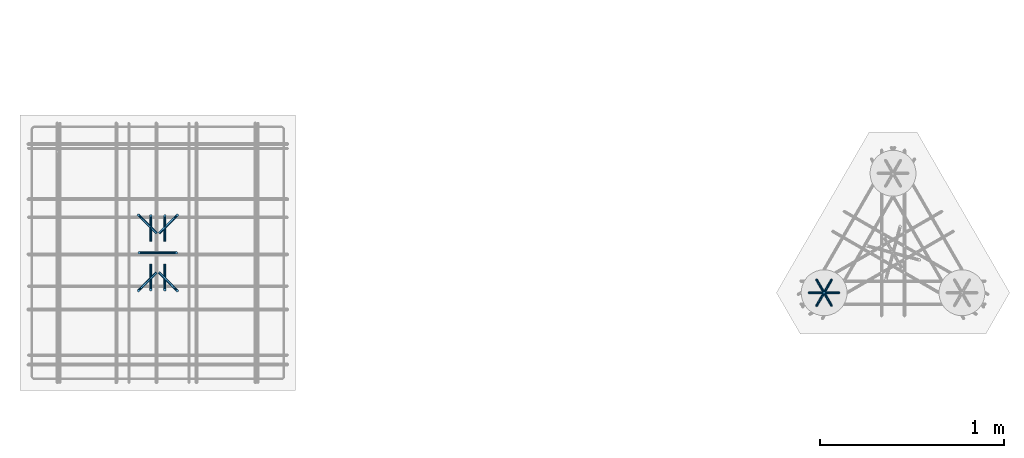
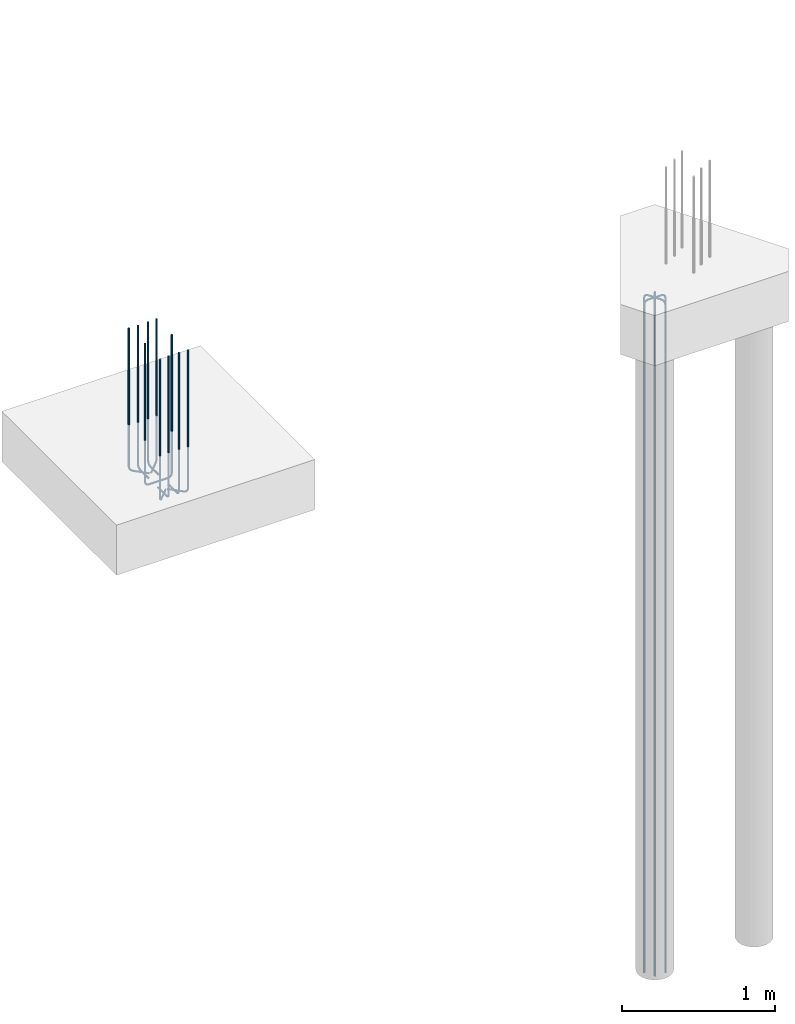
# One storey, part 2 of 23: 2 reinforcing bars.
"""IFC2X3 building model written with IfcOpenShell, lengths in metres."""

from ifc_helpers import new_model, entity, si_unit, direction, frame, origin, place, context, subcontext, project, spatial, shape, source, transform, mapped, element, save


model = new_model("IFC2X3")

# Units and contexts
model_context = context("Model", 3, precision=0.0, world=origin(), true_north=direction((0.0, 1.0)))
plan_context = context("Plan", 3, precision=0.0, world=origin(), true_north=direction((0.0, 1.0)))
body_context = subcontext(model_context, "Body", "Model", "MODEL_VIEW", scale=1.0)
ifc_project = project(units=[si_unit("LENGTHUNIT", "METRE"), si_unit("AREAUNIT", "SQUARE_METRE"), si_unit("VOLUMEUNIT", "CUBIC_METRE"), si_unit("PLANEANGLEUNIT", "RADIAN"), si_unit("THERMODYNAMICTEMPERATUREUNIT", "DEGREE_CELSIUS"), si_unit("FORCEUNIT", "NEWTON"), si_unit("MASSUNIT", "GRAM", prefix="KILO")], contexts=[model_context, plan_context])

# Site, building, storey
placement = place(None, origin())
site = spatial("IfcSite", under=ifc_project, at=placement, Name="Default Site", CompositionType="ELEMENT")
building = spatial("IfcBuilding", under=site, at=placement, Name="Default Building", CompositionType="ELEMENT")
storey_placement = place(placement, frame((0.0, 0.0, 0.0), z_axis=(1.0, 0.0, 0.0), x_axis=(0.0, 0.0, 1.0)))
storey = spatial("IfcBuildingStorey", under=building, at=storey_placement, Name="Piano 0", CompositionType="ELEMENT", Elevation=0.0)

# Reinforcing bars
shared_shape_1 = source(origin(), body_context, None, "AdvancedSweptSolid", [
    entity("IfcSweptDiskSolid", entity("IfcCompositeCurve", [entity("IfcCompositeCurveSegment", "CONTINUOUS", True, entity("IfcPolyline", [entity("IfcCartesianPoint", [0.0, 0.0, 0.0]), entity("IfcCartesianPoint", [-0.112, 0.0, 0.0]), entity("IfcCartesianPoint", [-0.126, 0.0, -0.003751]), entity("IfcCartesianPoint", [-0.136249, 0.0, -0.014]), entity("IfcCartesianPoint", [-0.14, 0.0, -0.028]), entity("IfcCartesianPoint", [-0.14, 0.0, -5.365])]))], False), 0.007, 0.0, 0.0),
])
shared_shape_2 = source(origin(), body_context, None, "AdvancedSweptSolid", [
    entity("IfcSweptDiskSolid", entity("IfcCompositeCurve", [entity("IfcCompositeCurveSegment", "CONTINUOUS", True, entity("IfcPolyline", [entity("IfcCartesianPoint", [0.0, 0.0, 0.0]), entity("IfcCartesianPoint", [-0.112, 0.0, 0.0]), entity("IfcCartesianPoint", [-0.126, 0.0, -0.003751]), entity("IfcCartesianPoint", [-0.136249, 0.0, -0.014]), entity("IfcCartesianPoint", [-0.14, 0.0, -0.028]), entity("IfcCartesianPoint", [-0.14, 0.0, -5.365])]))], False), 0.007, 0.0, 0.0),
])
shared_shape_3 = source(origin(), body_context, None, "AdvancedSweptSolid", [
    entity("IfcSweptDiskSolid", entity("IfcCompositeCurve", [entity("IfcCompositeCurveSegment", "CONTINUOUS", True, entity("IfcPolyline", [entity("IfcCartesianPoint", [0.0, 0.0, 0.0]), entity("IfcCartesianPoint", [-0.112, 0.0, 0.0]), entity("IfcCartesianPoint", [-0.126, 0.0, -0.003751]), entity("IfcCartesianPoint", [-0.136249, 0.0, -0.014]), entity("IfcCartesianPoint", [-0.14, 0.0, -0.028]), entity("IfcCartesianPoint", [-0.14, 0.0, -5.365])]))], False), 0.007, 0.0, 0.0),
])
shared_shape_4 = source(origin(), body_context, None, "AdvancedSweptSolid", [
    entity("IfcSweptDiskSolid", entity("IfcCompositeCurve", [entity("IfcCompositeCurveSegment", "CONTINUOUS", True, entity("IfcPolyline", [entity("IfcCartesianPoint", [0.0, 0.0, 0.0]), entity("IfcCartesianPoint", [-0.112, 0.0, 0.0]), entity("IfcCartesianPoint", [-0.126, 0.0, -0.003751]), entity("IfcCartesianPoint", [-0.136249, 0.0, -0.014]), entity("IfcCartesianPoint", [-0.14, 0.0, -0.028]), entity("IfcCartesianPoint", [-0.14, 0.0, -5.365])]))], False), 0.007, 0.0, 0.0),
])
shared_shape_5 = source(origin(), body_context, None, "AdvancedSweptSolid", [
    entity("IfcSweptDiskSolid", entity("IfcCompositeCurve", [entity("IfcCompositeCurveSegment", "CONTINUOUS", True, entity("IfcPolyline", [entity("IfcCartesianPoint", [0.0, 0.0, 0.0]), entity("IfcCartesianPoint", [-0.112, 0.0, 0.0]), entity("IfcCartesianPoint", [-0.126, 0.0, -0.003751]), entity("IfcCartesianPoint", [-0.136249, 0.0, -0.014]), entity("IfcCartesianPoint", [-0.14, 0.0, -0.028]), entity("IfcCartesianPoint", [-0.14, 0.0, -5.365])]))], False), 0.007, 0.0, 0.0),
])
shared_shape_6 = source(origin(), body_context, None, "AdvancedSweptSolid", [
    entity("IfcSweptDiskSolid", entity("IfcCompositeCurve", [entity("IfcCompositeCurveSegment", "CONTINUOUS", True, entity("IfcPolyline", [entity("IfcCartesianPoint", [0.0, 0.0, 0.0]), entity("IfcCartesianPoint", [-0.112, 0.0, 0.0]), entity("IfcCartesianPoint", [-0.126, 0.0, -0.003751]), entity("IfcCartesianPoint", [-0.136249, 0.0, -0.014]), entity("IfcCartesianPoint", [-0.14, 0.0, -0.028]), entity("IfcCartesianPoint", [-0.14, 0.0, -5.365])]))], False), 0.007, 0.0, 0.0),
])
element("IfcReinforcingBar", 1, at=placement, inside=storey, Name="Arm Principale; Palo:1 Filo:2 [Piano:0]", BarLength=32.95489, BarRole="MAIN", BarSurface="TEXTURED", NominalDiameter=0.014, shapes=[
    shape(body_context, None, "MappedRepresentation", [mapped(shared_shape_1, transform((3.685, -0.217, -0.035))), mapped(shared_shape_2, transform((3.655, -0.165038, -0.035), x_axis=(0.5, 0.866025, 0.0), y_axis=(-0.866025, 0.5, 0.0))), mapped(shared_shape_3, transform((3.595, -0.165038, -0.035), x_axis=(-0.5, 0.866025, 0.0), y_axis=(-0.866025, -0.5, 0.0))), mapped(shared_shape_4, transform((3.565, -0.217, -0.035), x_axis=(-1.0, 0.0, 0.0), y_axis=(0.0, -1.0, 0.0))), mapped(shared_shape_5, transform((3.595, -0.268962, -0.035), x_axis=(-0.5, -0.866025, 0.0), y_axis=(0.866025, -0.5, 0.0))), mapped(shared_shape_6, transform((3.655, -0.268962, -0.035), x_axis=(0.5, -0.866025, 0.0), y_axis=(0.866025, 0.5, 0.0)))]),
])
shared_shape_7 = source(origin(), body_context, None, "AdvancedSweptSolid", [
    entity("IfcSweptDiskSolid", entity("IfcCompositeCurve", [entity("IfcCompositeCurveSegment", "CONTINUOUS", True, entity("IfcPolyline", [entity("IfcCartesianPoint", [0.0, 0.0, 0.0]), entity("IfcCartesianPoint", [-0.079196, -0.079196, 0.0]), entity("IfcCartesianPoint", [-0.089095, -0.089095, 0.003751]), entity("IfcCartesianPoint", [-0.096342, -0.096342, 0.014]), entity("IfcCartesianPoint", [-0.098995, -0.098995, 0.028]), entity("IfcCartesianPoint", [-0.098995, -0.098995, 1.135])]))], False), 0.007, 0.0, 0.0),
])
shared_shape_8 = source(origin(), body_context, None, "MappedRepresentation", [mapped(shared_shape_7, transform((-0.006106, -0.106106, -0.365)))])
shared_shape_9 = source(origin(), body_context, None, "AdvancedSweptSolid", [
    entity("IfcSweptDiskSolid", entity("IfcCompositeCurve", [entity("IfcCompositeCurveSegment", "CONTINUOUS", True, entity("IfcPolyline", [entity("IfcCartesianPoint", [0.0, 0.0, 0.0]), entity("IfcCartesianPoint", [0.079196, -0.079196, 0.0]), entity("IfcCartesianPoint", [0.089095, -0.089095, 0.003751]), entity("IfcCartesianPoint", [0.096342, -0.096342, 0.014]), entity("IfcCartesianPoint", [0.098995, -0.098995, 0.028]), entity("IfcCartesianPoint", [0.098995, -0.098995, 1.135])]))], False), 0.007, 0.0, 0.0),
])
shared_shape_10 = source(origin(), body_context, None, "MappedRepresentation", [mapped(shared_shape_9, transform((0.006106, -0.106106, -0.365)))])
shared_shape_11 = source(origin(), body_context, None, "AdvancedSweptSolid", [
    entity("IfcSweptDiskSolid", entity("IfcCompositeCurve", [entity("IfcCompositeCurveSegment", "CONTINUOUS", True, entity("IfcPolyline", [entity("IfcCartesianPoint", [0.0, 0.0, 0.0]), entity("IfcCartesianPoint", [0.079196, 0.079196, 0.0]), entity("IfcCartesianPoint", [0.089095, 0.089095, 0.003751]), entity("IfcCartesianPoint", [0.096342, 0.096342, 0.014]), entity("IfcCartesianPoint", [0.098995, 0.098995, 0.028]), entity("IfcCartesianPoint", [0.098995, 0.098995, 1.135])]))], False), 0.007, 0.0, 0.0),
])
shared_shape_12 = source(origin(), body_context, None, "MappedRepresentation", [mapped(shared_shape_11, transform((0.006106, 0.106106, -0.365)))])
shared_shape_13 = source(origin(), body_context, None, "AdvancedSweptSolid", [
    entity("IfcSweptDiskSolid", entity("IfcCompositeCurve", [entity("IfcCompositeCurveSegment", "CONTINUOUS", True, entity("IfcPolyline", [entity("IfcCartesianPoint", [0.0, 0.0, 0.0]), entity("IfcCartesianPoint", [-0.079196, 0.079196, 0.0]), entity("IfcCartesianPoint", [-0.089095, 0.089095, 0.003751]), entity("IfcCartesianPoint", [-0.096342, 0.096342, 0.014]), entity("IfcCartesianPoint", [-0.098995, 0.098995, 0.028]), entity("IfcCartesianPoint", [-0.098995, 0.098995, 1.135])]))], False), 0.007, 0.0, 0.0),
])
shared_shape_14 = source(origin(), body_context, None, "MappedRepresentation", [mapped(shared_shape_13, transform((-0.006106, 0.106106, -0.365)))])
shared_shape_15 = source(origin(), body_context, None, "AdvancedSweptSolid", [
    entity("IfcSweptDiskSolid", entity("IfcCompositeCurve", [entity("IfcCompositeCurveSegment", "CONTINUOUS", True, entity("IfcPolyline", [entity("IfcCartesianPoint", [0.0, 0.0, 0.0]), entity("IfcCartesianPoint", [0.0, -0.112, 0.0]), entity("IfcCartesianPoint", [0.0, -0.126, 0.003751]), entity("IfcCartesianPoint", [0.0, -0.136249, 0.014]), entity("IfcCartesianPoint", [0.0, -0.14, 0.028]), entity("IfcCartesianPoint", [0.0, -0.14, 1.135])]))], False), 0.007, 0.0, 0.0),
])
shared_shape_16 = source(origin(), body_context, None, "MappedRepresentation", [mapped(shared_shape_15, transform((-0.038333, -0.061, -0.365)))])
shared_shape_17 = source(origin(), body_context, None, "AdvancedSweptSolid", [
    entity("IfcSweptDiskSolid", entity("IfcCompositeCurve", [entity("IfcCompositeCurveSegment", "CONTINUOUS", True, entity("IfcPolyline", [entity("IfcCartesianPoint", [0.0, 0.0, 0.0]), entity("IfcCartesianPoint", [0.0, -0.112, 0.0]), entity("IfcCartesianPoint", [0.0, -0.126, 0.003751]), entity("IfcCartesianPoint", [0.0, -0.136249, 0.014]), entity("IfcCartesianPoint", [0.0, -0.14, 0.028]), entity("IfcCartesianPoint", [0.0, -0.14, 1.135])]))], False), 0.007, 0.0, 0.0),
])
shared_shape_18 = source(origin(), body_context, None, "MappedRepresentation", [mapped(shared_shape_17, transform((0.038333, -0.061, -0.365)))])
shared_shape_19 = source(origin(), body_context, None, "AdvancedSweptSolid", [
    entity("IfcSweptDiskSolid", entity("IfcCompositeCurve", [entity("IfcCompositeCurveSegment", "CONTINUOUS", True, entity("IfcPolyline", [entity("IfcCartesianPoint", [0.0, 0.0, 0.0]), entity("IfcCartesianPoint", [0.112, 0.0, 0.0]), entity("IfcCartesianPoint", [0.126, 0.0, 0.003751]), entity("IfcCartesianPoint", [0.136249, 0.0, 0.014]), entity("IfcCartesianPoint", [0.14, 0.0, 0.028]), entity("IfcCartesianPoint", [0.14, 0.0, 1.135])]))], False), 0.007, 0.0, 0.0),
])
shared_shape_20 = source(origin(), body_context, None, "MappedRepresentation", [mapped(shared_shape_19, transform((-0.039, 0.0, -0.365)))])
shared_shape_21 = source(origin(), body_context, None, "AdvancedSweptSolid", [
    entity("IfcSweptDiskSolid", entity("IfcCompositeCurve", [entity("IfcCompositeCurveSegment", "CONTINUOUS", True, entity("IfcPolyline", [entity("IfcCartesianPoint", [0.0, 0.0, 0.0]), entity("IfcCartesianPoint", [0.0, 0.112, 0.0]), entity("IfcCartesianPoint", [0.0, 0.126, 0.003751]), entity("IfcCartesianPoint", [0.0, 0.136249, 0.014]), entity("IfcCartesianPoint", [0.0, 0.14, 0.028]), entity("IfcCartesianPoint", [0.0, 0.14, 1.135])]))], False), 0.007, 0.0, 0.0),
])
shared_shape_22 = source(origin(), body_context, None, "MappedRepresentation", [mapped(shared_shape_21, transform((0.038333, 0.061, -0.365)))])
shared_shape_23 = source(origin(), body_context, None, "AdvancedSweptSolid", [
    entity("IfcSweptDiskSolid", entity("IfcCompositeCurve", [entity("IfcCompositeCurveSegment", "CONTINUOUS", True, entity("IfcPolyline", [entity("IfcCartesianPoint", [0.0, 0.0, 0.0]), entity("IfcCartesianPoint", [0.0, 0.112, 0.0]), entity("IfcCartesianPoint", [0.0, 0.126, 0.003751]), entity("IfcCartesianPoint", [0.0, 0.136249, 0.014]), entity("IfcCartesianPoint", [0.0, 0.14, 0.028]), entity("IfcCartesianPoint", [0.0, 0.14, 1.135])]))], False), 0.007, 0.0, 0.0),
])
shared_shape_24 = source(origin(), body_context, None, "MappedRepresentation", [mapped(shared_shape_23, transform((-0.038333, 0.061, -0.365)))])
shared_shape_25 = source(origin(), body_context, None, "AdvancedSweptSolid", [
    entity("IfcSweptDiskSolid", entity("IfcCompositeCurve", [entity("IfcCompositeCurveSegment", "CONTINUOUS", True, entity("IfcPolyline", [entity("IfcCartesianPoint", [0.0, 0.0, 0.0]), entity("IfcCartesianPoint", [-0.112, 0.0, 0.0]), entity("IfcCartesianPoint", [-0.126, 0.0, 0.003751]), entity("IfcCartesianPoint", [-0.136249, 0.0, 0.014]), entity("IfcCartesianPoint", [-0.14, 0.0, 0.028]), entity("IfcCartesianPoint", [-0.14, 0.0, 1.135])]))], False), 0.007, 0.0, 0.0),
])
shared_shape_26 = source(origin(), body_context, None, "MappedRepresentation", [mapped(shared_shape_25, transform((0.039, 0.0, -0.365)))])
element("IfcReinforcingBar", 2, at=placement, inside=storey, Name="Arm Ancoraggio; Nodo:1 [Piano:0]", BarLength=12.649853, BarSurface="TEXTURED", NominalDiameter=0.014, shapes=[
    shape(body_context, None, "MappedRepresentation", [mapped(shared_shape_8, transform((0.0, 0.0, 0.0))), mapped(shared_shape_10, transform((0.0, 0.0, 0.0))), mapped(shared_shape_12, transform((0.0, 0.0, 0.0))), mapped(shared_shape_14, transform((0.0, 0.0, 0.0))), mapped(shared_shape_16, transform((0.0, 0.0, 0.0))), mapped(shared_shape_18, transform((0.0, 0.0, 0.0))), mapped(shared_shape_20, transform((0.0, 0.0, 0.0))), mapped(shared_shape_22, transform((0.0, 0.0, 0.0))), mapped(shared_shape_24, transform((0.0, 0.0, 0.0))), mapped(shared_shape_26, transform((0.0, 0.0, 0.0)))]),
])

save(model, "model.ifc")
